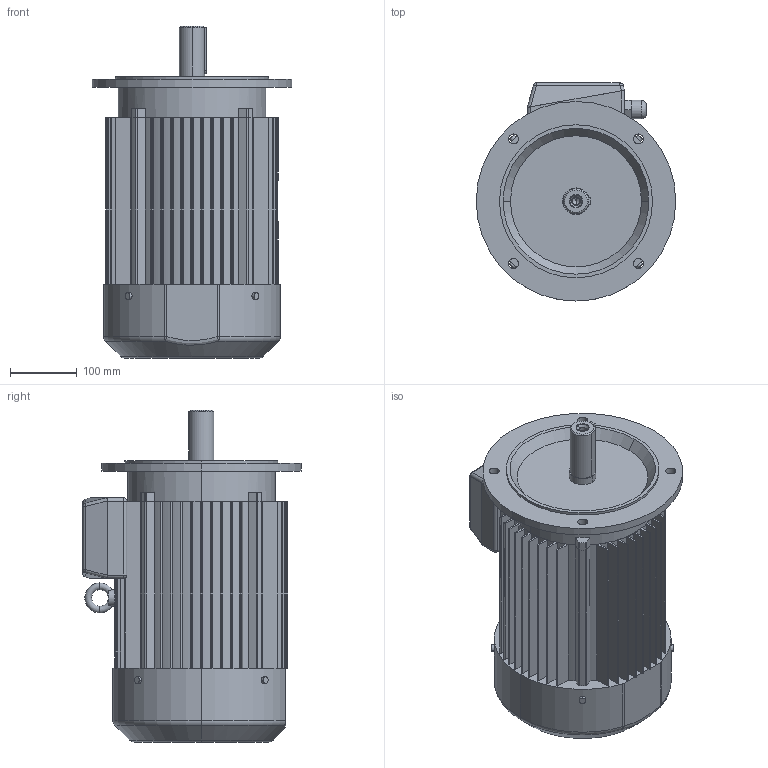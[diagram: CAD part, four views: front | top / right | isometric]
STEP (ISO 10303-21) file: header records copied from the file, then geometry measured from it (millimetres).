
FILE_DESCRIPTION (( 'STEP AP203' ), '1' );
FILE_NAME ('2SIEK132M4,6A,6B.STEP', '2012-10-29T06:41:23', ( 'INDUKTA' ), ( 'CANTONI MOTOR' ), 'SwSTEP 2.0', 'SolidWorks 2003064', '' );
FILE_SCHEMA (( 'CONFIG_CONTROL_DESIGN' ));
Length unit declared in the file: millimetre
Products named in the file (1): 2SIEK132M4,6A,6B
Bounding box: 300 x 328 x 499 mm (x, y, z)
Volume: 19795568.6 mm3; surface area: 1074351.9 mm2
Topology: 12 solids, 12 shells, 385 faces, 1028 edges, 654 vertices
Faces by surface type: cylinder 181, plane 166, cone 14, torus 13, sphere 10, bspline 1
Entity records: 12805 total; most frequent: CARTESIAN_POINT 2922, DIRECTION 2149, ORIENTED_EDGE 2032, EDGE_CURVE 1016, AXIS2_PLACEMENT_3D 785, VERTEX_POINT 654, LINE 579, VECTOR 579
